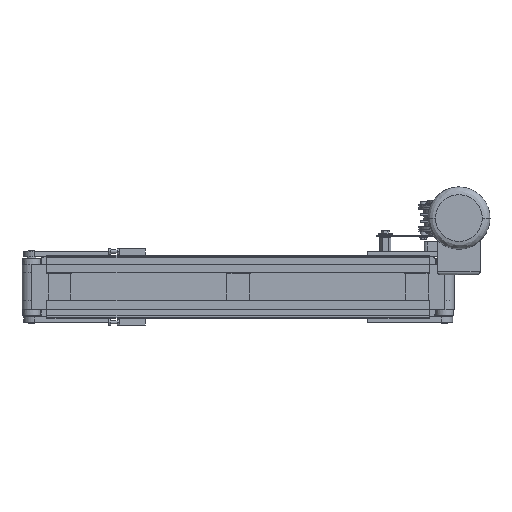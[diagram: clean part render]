
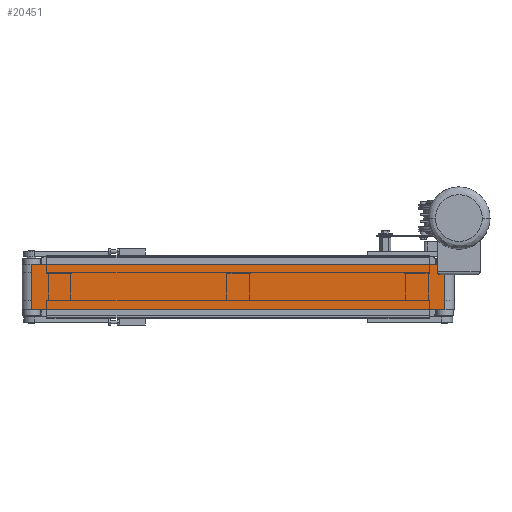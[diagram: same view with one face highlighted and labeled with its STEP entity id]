
A CAD part, front view. The second image highlights one B-rep face of the part: STEP entity #20451.
In plain terms, the highlighted planar face has unit normal (0, -1, 0).
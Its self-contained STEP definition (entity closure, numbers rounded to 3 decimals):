
#684 = CARTESIAN_POINT ( 'NONE',  ( 365., -17., 40. ) ) ;
#3276 = LINE ( 'NONE', #40266, #20025 ) ;
#5089 = VECTOR ( 'NONE', #13261, 1000. ) ;
#6088 = DIRECTION ( 'NONE',  ( 0., 0., 1. ) ) ;
#6096 = LINE ( 'NONE', #43745, #5089 ) ;
#6199 = DIRECTION ( 'NONE',  ( 0., 0., -1. ) ) ;
#7419 = CARTESIAN_POINT ( 'NONE',  ( -365., -17., -40. ) ) ;
#8812 = FACE_OUTER_BOUND ( 'NONE', #28729, .T. ) ;
#11700 = DIRECTION ( 'NONE',  ( 0., 0., -1. ) ) ;
#12077 = AXIS2_PLACEMENT_3D ( 'NONE', #22702, #43520, #6088 ) ;
#13059 = EDGE_CURVE ( 'NONE', #44045, #22372, #38103, .T. ) ;
#13261 = DIRECTION ( 'NONE',  ( 1., 0., 0. ) ) ;
#19292 = ORIENTED_EDGE ( 'NONE', *, *, #13059, .T. ) ;
#19468 = VERTEX_POINT ( 'NONE', #684 ) ;
#20025 = VECTOR ( 'NONE', #6199, 1000. ) ;
#20199 = EDGE_CURVE ( 'NONE', #38207, #44045, #3276, .T. ) ;
#20451 = ADVANCED_FACE ( 'NONE', ( #8812 ), #42043, .F. ) ;
#21068 = CARTESIAN_POINT ( 'NONE',  ( -365., -17., 40. ) ) ;
#21891 = CARTESIAN_POINT ( 'NONE',  ( -365., -17., -40. ) ) ;
#22372 = VERTEX_POINT ( 'NONE', #29093 ) ;
#22702 = CARTESIAN_POINT ( 'NONE',  ( -365., -17., 40. ) ) ;
#27935 = VECTOR ( 'NONE', #32490, 1000. ) ;
#28729 = EDGE_LOOP ( 'NONE', ( #19292, #43533, #36518, #30684 ) ) ;
#29093 = CARTESIAN_POINT ( 'NONE',  ( 365., -17., -40. ) ) ;
#30599 = EDGE_CURVE ( 'NONE', #19468, #22372, #35874, .T. ) ;
#30684 = ORIENTED_EDGE ( 'NONE', *, *, #20199, .T. ) ;
#32490 = DIRECTION ( 'NONE',  ( 1., 0., 0. ) ) ;
#35874 = LINE ( 'NONE', #39256, #40410 ) ;
#36518 = ORIENTED_EDGE ( 'NONE', *, *, #41359, .F. ) ;
#38103 = LINE ( 'NONE', #7419, #27935 ) ;
#38207 = VERTEX_POINT ( 'NONE', #21068 ) ;
#39256 = CARTESIAN_POINT ( 'NONE',  ( 365., -17., 40. ) ) ;
#40266 = CARTESIAN_POINT ( 'NONE',  ( -365., -17., 40. ) ) ;
#40410 = VECTOR ( 'NONE', #11700, 1000. ) ;
#41359 = EDGE_CURVE ( 'NONE', #38207, #19468, #6096, .T. ) ;
#42043 = PLANE ( 'NONE',  #12077 ) ;
#43520 = DIRECTION ( 'NONE',  ( 0., 1., 0. ) ) ;
#43533 = ORIENTED_EDGE ( 'NONE', *, *, #30599, .F. ) ;
#43745 = CARTESIAN_POINT ( 'NONE',  ( -365., -17., 40. ) ) ;
#44045 = VERTEX_POINT ( 'NONE', #21891 ) ;
